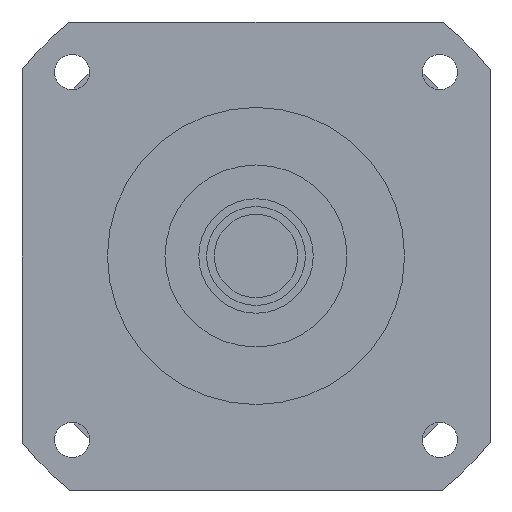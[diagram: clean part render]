
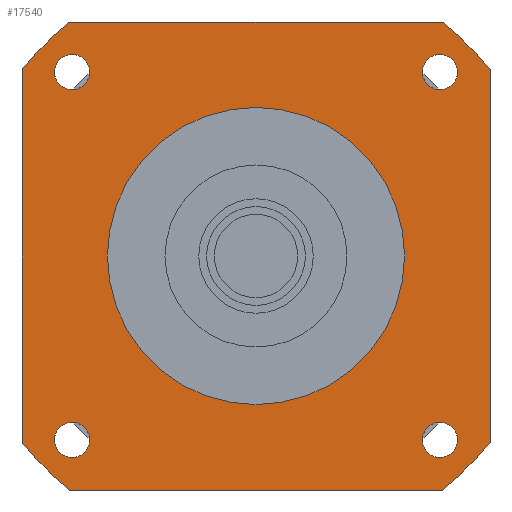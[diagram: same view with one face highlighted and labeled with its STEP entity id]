
A CAD part, left-side view. The second image highlights one B-rep face of the part: STEP entity #17540.
In plain terms, the highlighted planar face has unit normal (-1, 0, 0) as drawn and (0, 0, -1) by its records, which use the part's own axes.
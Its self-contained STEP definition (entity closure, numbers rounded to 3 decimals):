
#13530=CARTESIAN_POINT('',(63.961,-70.711,-91.7));
#13540=VERTEX_POINT('',#13530);
#13570=CARTESIAN_POINT('',(70.711,-70.711,-91.7));
#13580=DIRECTION('',(0.,0.,-1.));
#13590=DIRECTION('',(1.,0.,0.));
#13600=AXIS2_PLACEMENT_3D('',#13570,#13580,#13590);
#13610=CIRCLE('',#13600,6.75);
#13620=CARTESIAN_POINT('',(77.461,-70.711,-91.7));
#13630=VERTEX_POINT('',#13620);
#13640=EDGE_CURVE('',#13630,#13540,#13610,.T.);
#15970=CARTESIAN_POINT('',(70.711,63.961,-91.7));
#15980=VERTEX_POINT('',#15970);
#16010=CARTESIAN_POINT('',(70.711,70.711,-91.7));
#16020=DIRECTION('',(0.,0.,-1.));
#16030=DIRECTION('',(0.,1.,0.));
#16040=AXIS2_PLACEMENT_3D('',#16010,#16020,#16030);
#16050=CIRCLE('',#16040,6.75);
#16060=CARTESIAN_POINT('',(70.711,77.461,-91.7));
#16070=VERTEX_POINT('',#16060);
#16080=EDGE_CURVE('',#16070,#15980,#16050,.T.);
#16200=CARTESIAN_POINT('',(90.,90.,-91.7));
#16210=DIRECTION('',(0.,0.,-1.));
#16220=DIRECTION('',(1.,0.,0.));
#16230=AXIS2_PLACEMENT_3D('',#16200,#16210,#16220);
#16240=PLANE('',#16230);
#16250=CARTESIAN_POINT('',(-70.711,-70.711,-91.7));
#16260=DIRECTION('',(0.,0.,-1.));
#16270=DIRECTION('',(0.,-1.,0.));
#16280=AXIS2_PLACEMENT_3D('',#16250,#16260,#16270);
#16290=CIRCLE('',#16280,6.75);
#16300=CARTESIAN_POINT('',(-70.711,-77.461,-91.7));
#16310=VERTEX_POINT('',#16300);
#16320=CARTESIAN_POINT('',(-70.711,-63.961,-91.7));
#16330=VERTEX_POINT('',#16320);
#16340=EDGE_CURVE('',#16310,#16330,#16290,.T.);
#16350=ORIENTED_EDGE('',*,*,#16340,.F.);
#16360=EDGE_CURVE('',#16330,#16310,#16290,.T.);
#16370=ORIENTED_EDGE('',*,*,#16360,.F.);
#16380=EDGE_LOOP('',(#16370,#16350));
#16390=FACE_BOUND('',#16380,.T.);
#16400=CARTESIAN_POINT('',(-70.711,70.711,-91.7));
#16410=DIRECTION('',(0.,0.,-1.));
#16420=DIRECTION('',(-1.,0.,0.));
#16430=AXIS2_PLACEMENT_3D('',#16400,#16410,#16420);
#16440=CIRCLE('',#16430,6.75);
#16450=CARTESIAN_POINT('',(-77.461,70.711,-91.7));
#16460=VERTEX_POINT('',#16450);
#16470=CARTESIAN_POINT('',(-63.961,70.711,-91.7));
#16480=VERTEX_POINT('',#16470);
#16490=EDGE_CURVE('',#16460,#16480,#16440,.T.);
#16500=ORIENTED_EDGE('',*,*,#16490,.F.);
#16510=EDGE_CURVE('',#16480,#16460,#16440,.T.);
#16520=ORIENTED_EDGE('',*,*,#16510,.F.);
#16530=EDGE_LOOP('',(#16520,#16500));
#16540=FACE_BOUND('',#16530,.T.);
#16550=ORIENTED_EDGE('',*,*,#16080,.F.);
#16560=EDGE_CURVE('',#15980,#16070,#16050,.T.);
#16570=ORIENTED_EDGE('',*,*,#16560,.F.);
#16580=EDGE_LOOP('',(#16570,#16550));
#16590=FACE_BOUND('',#16580,.T.);
#16600=CARTESIAN_POINT('',(0.,0.,
-91.7));
#16610=DIRECTION('',(0.,0.,1.));
#16620=DIRECTION('',(0.,1.,0.));
#16630=AXIS2_PLACEMENT_3D('',#16600,#16610,#16620);
#16640=CIRCLE('',#16630,57.15);
#16650=CARTESIAN_POINT('',(-57.15,0.,-91.7));
#16660=VERTEX_POINT('',#16650);
#16670=CARTESIAN_POINT('',(57.15,0.,-91.7));
#16680=VERTEX_POINT('',#16670);
#16690=EDGE_CURVE('',#16660,#16680,#16640,.T.);
#16700=ORIENTED_EDGE('',*,*,#16690,.T.);
#16710=CARTESIAN_POINT('',(0.,57.15,-91.7));
#16720=VERTEX_POINT('',#16710);
#16730=EDGE_CURVE('',#16720,#16660,#16640,.T.);
#16740=ORIENTED_EDGE('',*,*,#16730,.T.);
#16750=EDGE_CURVE('',#16680,#16720,#16640,.T.);
#16760=ORIENTED_EDGE('',*,*,#16750,.T.);
#16770=EDGE_LOOP('',(#16760,#16740,#16700));
#16780=FACE_BOUND('',#16770,.T.);
#16790=CARTESIAN_POINT('',(-90.,90.,-91.7));
#16800=DIRECTION('',(1.,0.,0.));
#16810=VECTOR('',#16800,1000.);
#16820=LINE('',#16790,#16810);
#16830=CARTESIAN_POINT('',(-71.589,90.,-91.7));
#16840=VERTEX_POINT('',#16830);
#16850=CARTESIAN_POINT('',(71.589,90.,-91.7));
#16860=VERTEX_POINT('',#16850);
#16870=EDGE_CURVE('',#16840,#16860,#16820,.T.);
#16880=ORIENTED_EDGE('',*,*,#16870,.T.);
#16890=CARTESIAN_POINT('',(0.,0.,
-91.7));
#16900=DIRECTION('',(0.,0.,-1.));
#16910=DIRECTION('',(1.,0.,0.));
#16920=AXIS2_PLACEMENT_3D('',#16890,#16900,#16910);
#16930=CIRCLE('',#16920,115.);
#16940=CARTESIAN_POINT('',(-90.,71.589,-91.7));
#16950=VERTEX_POINT('',#16940);
#16960=EDGE_CURVE('',#16950,#16840,#16930,.T.);
#16970=ORIENTED_EDGE('',*,*,#16960,.T.);
#16980=CARTESIAN_POINT('',(-90.,-90.,-91.7));
#16990=DIRECTION('',(0.,1.,0.));
#17000=VECTOR('',#16990,1000.);
#17010=LINE('',#16980,#17000);
#17020=CARTESIAN_POINT('',(-90.,-71.589,-91.7));
#17030=VERTEX_POINT('',#17020);
#17040=EDGE_CURVE('',#17030,#16950,#17010,.T.);
#17050=ORIENTED_EDGE('',*,*,#17040,.T.);
#17060=CARTESIAN_POINT('',(0.,0.,
-91.7));
#17070=DIRECTION('',(0.,0.,-1.));
#17080=DIRECTION('',(1.,0.,0.));
#17090=AXIS2_PLACEMENT_3D('',#17060,#17070,#17080);
#17100=CIRCLE('',#17090,115.);
#17110=CARTESIAN_POINT('',(-71.589,-90.,-91.7));
#17120=VERTEX_POINT('',#17110);
#17130=EDGE_CURVE('',#17120,#17030,#17100,.T.);
#17140=ORIENTED_EDGE('',*,*,#17130,.T.);
#17150=CARTESIAN_POINT('',(90.,-90.,-91.7));
#17160=DIRECTION('',(-1.,0.,0.));
#17170=VECTOR('',#17160,1000.);
#17180=LINE('',#17150,#17170);
#17190=CARTESIAN_POINT('',(71.589,-90.,-91.7));
#17200=VERTEX_POINT('',#17190);
#17210=EDGE_CURVE('',#17200,#17120,#17180,.T.);
#17220=ORIENTED_EDGE('',*,*,#17210,.T.);
#17230=CARTESIAN_POINT('',(0.,0.,
-91.7));
#17240=DIRECTION('',(0.,0.,-1.));
#17250=DIRECTION('',(1.,0.,0.));
#17260=AXIS2_PLACEMENT_3D('',#17230,#17240,#17250);
#17270=CIRCLE('',#17260,115.);
#17280=CARTESIAN_POINT('',(90.,-71.589,-91.7));
#17290=VERTEX_POINT('',#17280);
#17300=EDGE_CURVE('',#17290,#17200,#17270,.T.);
#17310=ORIENTED_EDGE('',*,*,#17300,.T.);
#17320=CARTESIAN_POINT('',(90.,90.,-91.7));
#17330=DIRECTION('',(0.,-1.,0.));
#17340=VECTOR('',#17330,1000.);
#17350=LINE('',#17320,#17340);
#17360=CARTESIAN_POINT('',(90.,71.589,-91.7));
#17370=VERTEX_POINT('',#17360);
#17380=EDGE_CURVE('',#17370,#17290,#17350,.T.);
#17390=ORIENTED_EDGE('',*,*,#17380,.T.);
#17400=CARTESIAN_POINT('',(0.,0.,
-91.7));
#17410=DIRECTION('',(0.,0.,-1.));
#17420=DIRECTION('',(1.,0.,0.));
#17430=AXIS2_PLACEMENT_3D('',#17400,#17410,#17420);
#17440=CIRCLE('',#17430,115.);
#17450=EDGE_CURVE('',#16860,#17370,#17440,.T.);
#17460=ORIENTED_EDGE('',*,*,#17450,.T.);
#17470=EDGE_LOOP('',(#17460,#17390,#17310,#17220,#17140,#17050,#16970,
#16880));
#17480=FACE_OUTER_BOUND('',#17470,.T.);
#17490=ORIENTED_EDGE('',*,*,#13640,.F.);
#17500=EDGE_CURVE('',#13540,#13630,#13610,.T.);
#17510=ORIENTED_EDGE('',*,*,#17500,.F.);
#17520=EDGE_LOOP('',(#17510,#17490));
#17530=FACE_BOUND('',#17520,.T.);
#17540=ADVANCED_FACE('',(#16390,#16540,#16590,#16780,#17480,#17530),
#16240,.T.);
